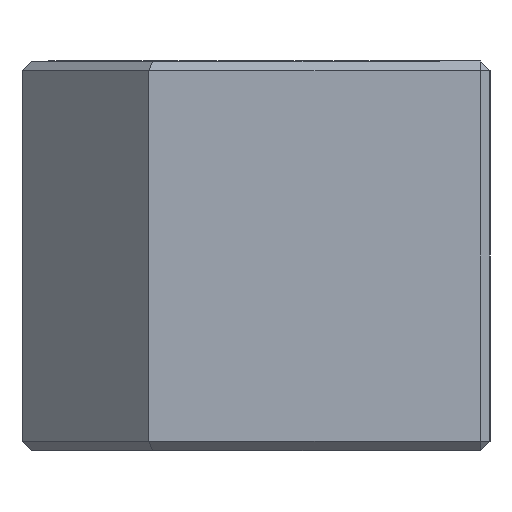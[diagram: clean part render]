
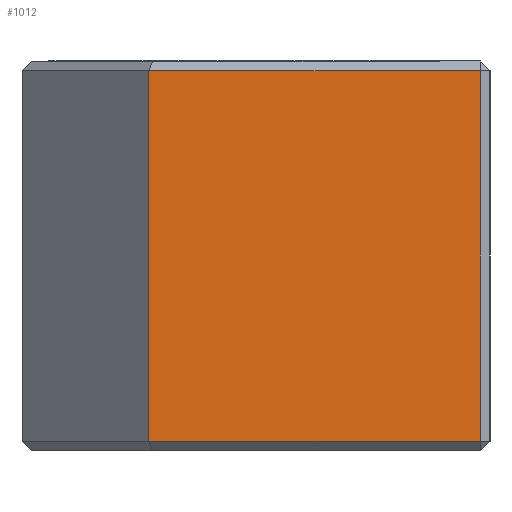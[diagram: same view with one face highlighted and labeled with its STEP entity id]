
A CAD part, left-side view. The second image highlights one B-rep face of the part: STEP entity #1012.
In plain terms, the highlighted planar face has unit normal (-1, 0, 0).
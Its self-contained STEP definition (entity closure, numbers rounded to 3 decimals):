
#106 = VERTEX_POINT ( 'NONE', #252 ) ;
#170 = CARTESIAN_POINT ( 'NONE',  ( -33., -23., 0. ) ) ;
#171 = VERTEX_POINT ( 'NONE', #246 ) ;
#184 = VERTEX_POINT ( 'NONE', #1088 ) ;
#197 = CARTESIAN_POINT ( 'NONE',  ( -33., -12., -39. ) ) ;
#246 = CARTESIAN_POINT ( 'NONE',  ( -33., 11., -39. ) ) ;
#252 = CARTESIAN_POINT ( 'NONE',  ( -33., -23., -1. ) ) ;
#261 = VERTEX_POINT ( 'NONE', #892 ) ;
#292 = DIRECTION ( 'NONE',  ( 0., 0., 1. ) ) ;
#308 = VECTOR ( 'NONE', #1539, 1000. ) ;
#395 = EDGE_CURVE ( 'NONE', #261, #106, #861, .T. ) ;
#407 = VECTOR ( 'NONE', #1249, 1000. ) ;
#492 = ORIENTED_EDGE ( 'NONE', *, *, #879, .F. ) ;
#494 = FACE_OUTER_BOUND ( 'NONE', #1076, .T. ) ;
#530 = LINE ( 'NONE', #1247, #565 ) ;
#565 = VECTOR ( 'NONE', #292, 1000. ) ;
#580 = ORIENTED_EDGE ( 'NONE', *, *, #1234, .F. ) ;
#592 = VECTOR ( 'NONE', #1043, 1000. ) ;
#759 = EDGE_CURVE ( 'NONE', #171, #184, #530, .T. ) ;
#840 = PLANE ( 'NONE',  #935 ) ;
#861 = LINE ( 'NONE', #170, #407 ) ;
#879 = EDGE_CURVE ( 'NONE', #261, #171, #1272, .T. ) ;
#892 = CARTESIAN_POINT ( 'NONE',  ( -33., -23., -39. ) ) ;
#935 = AXIS2_PLACEMENT_3D ( 'NONE', #1306, #969, #1442 ) ;
#945 = ORIENTED_EDGE ( 'NONE', *, *, #395, .T. ) ;
#969 = DIRECTION ( 'NONE',  ( -1., 0., 0. ) ) ;
#1012 = ADVANCED_FACE ( 'NONE', ( #494 ), #840, .T. ) ;
#1043 = DIRECTION ( 'NONE',  ( 0., 1., 0. ) ) ;
#1066 = CARTESIAN_POINT ( 'NONE',  ( -33., -12., -1. ) ) ;
#1076 = EDGE_LOOP ( 'NONE', ( #580, #1541, #492, #945 ) ) ;
#1088 = CARTESIAN_POINT ( 'NONE',  ( -33., 11., -1. ) ) ;
#1184 = LINE ( 'NONE', #1066, #308 ) ;
#1234 = EDGE_CURVE ( 'NONE', #184, #106, #1184, .T. ) ;
#1247 = CARTESIAN_POINT ( 'NONE',  ( -33., 11., 0. ) ) ;
#1249 = DIRECTION ( 'NONE',  ( 0., 0., 1. ) ) ;
#1272 = LINE ( 'NONE', #197, #592 ) ;
#1306 = CARTESIAN_POINT ( 'NONE',  ( -33., -24., 0. ) ) ;
#1442 = DIRECTION ( 'NONE',  ( 0., 0., 1. ) ) ;
#1539 = DIRECTION ( 'NONE',  ( 0., -1., 0. ) ) ;
#1541 = ORIENTED_EDGE ( 'NONE', *, *, #759, .F. ) ;
